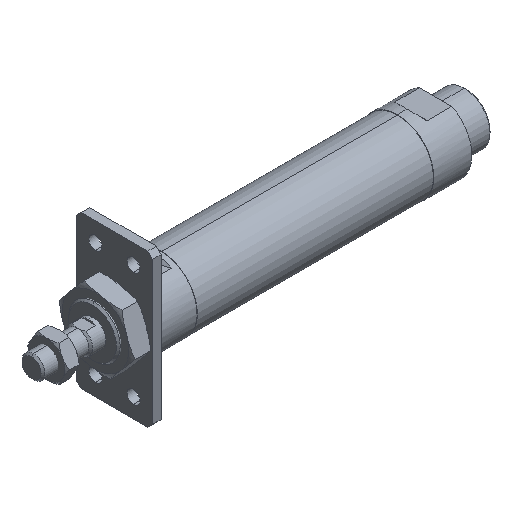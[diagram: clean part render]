
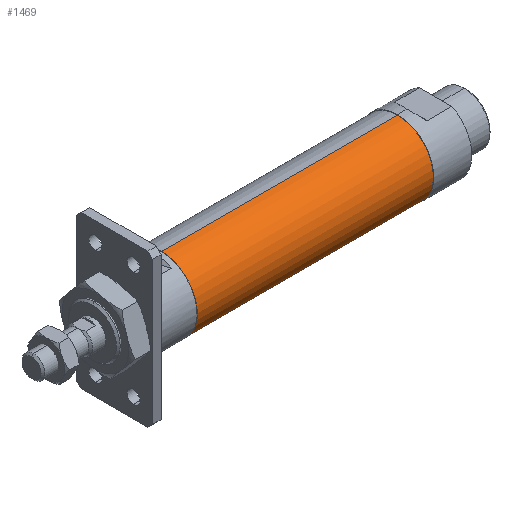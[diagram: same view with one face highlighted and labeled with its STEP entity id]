
A CAD part, isometric view. The second image highlights one B-rep face of the part: STEP entity #1469.
In plain terms, the highlighted cylindrical face has radius 18.8 mm (diameter 37.6 mm), a partial arc.
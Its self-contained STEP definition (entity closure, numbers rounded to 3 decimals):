
#22 = AXIS2_PLACEMENT_3D ( 'NONE', #758, #3066, #3541 ) ;
#172 = VERTEX_POINT ( 'NONE', #3349 ) ;
#340 = VERTEX_POINT ( 'NONE', #2755 ) ;
#526 = DIRECTION ( 'NONE',  ( -1., 0., 0. ) ) ;
#637 = ORIENTED_EDGE ( 'NONE', *, *, #2220, .F. ) ;
#732 = DIRECTION ( 'NONE',  ( -1., 0., 0. ) ) ;
#758 = CARTESIAN_POINT ( 'NONE',  ( 192., 0., 0. ) ) ;
#943 = CARTESIAN_POINT ( 'NONE',  ( -1.784, 0., 0. ) ) ;
#1017 = FACE_OUTER_BOUND ( 'NONE', #3436, .T. ) ;
#1083 = CARTESIAN_POINT ( 'NONE',  ( -1.784, 0., -18.8 ) ) ;
#1469 = ADVANCED_FACE ( 'NONE', ( #1017 ), #3592, .T. ) ;
#1471 = CARTESIAN_POINT ( 'NONE',  ( 68., 0., -18.8 ) ) ;
#1635 = ORIENTED_EDGE ( 'NONE', *, *, #3075, .T. ) ;
#1799 = CIRCLE ( 'NONE', #3258, 18.8 ) ;
#1979 = CIRCLE ( 'NONE', #22, 18.8 ) ;
#2220 = EDGE_CURVE ( 'NONE', #3739, #2660, #2294, .T. ) ;
#2252 = DIRECTION ( 'NONE',  ( -1., 0., 0. ) ) ;
#2258 = LINE ( 'NONE', #4111, #2407 ) ;
#2294 = LINE ( 'NONE', #1083, #3359 ) ;
#2407 = VECTOR ( 'NONE', #2252, 1000. ) ;
#2426 = EDGE_CURVE ( 'NONE', #2660, #340, #1799, .T. ) ;
#2458 = EDGE_CURVE ( 'NONE', #3739, #172, #1979, .T. ) ;
#2646 = CARTESIAN_POINT ( 'NONE',  ( 68., 0., 0. ) ) ;
#2660 = VERTEX_POINT ( 'NONE', #1471 ) ;
#2741 = AXIS2_PLACEMENT_3D ( 'NONE', #943, #732, #3728 ) ;
#2755 = CARTESIAN_POINT ( 'NONE',  ( 68., 0., 18.8 ) ) ;
#2995 = DIRECTION ( 'NONE',  ( -1., 0., 0. ) ) ;
#3066 = DIRECTION ( 'NONE',  ( -1., 0., 0. ) ) ;
#3075 = EDGE_CURVE ( 'NONE', #172, #340, #2258, .T. ) ;
#3155 = CARTESIAN_POINT ( 'NONE',  ( 192., 0., -18.8 ) ) ;
#3258 = AXIS2_PLACEMENT_3D ( 'NONE', #2646, #2995, #3269 ) ;
#3269 = DIRECTION ( 'NONE',  ( 0., 0., 1. ) ) ;
#3349 = CARTESIAN_POINT ( 'NONE',  ( 192., 0., 18.8 ) ) ;
#3359 = VECTOR ( 'NONE', #526, 1000. ) ;
#3436 = EDGE_LOOP ( 'NONE', ( #637, #3719, #1635, #3581 ) ) ;
#3541 = DIRECTION ( 'NONE',  ( 0., 0., 1. ) ) ;
#3581 = ORIENTED_EDGE ( 'NONE', *, *, #2426, .F. ) ;
#3592 = CYLINDRICAL_SURFACE ( 'NONE', #2741, 18.8 ) ;
#3719 = ORIENTED_EDGE ( 'NONE', *, *, #2458, .T. ) ;
#3728 = DIRECTION ( 'NONE',  ( 0., 0., 1. ) ) ;
#3739 = VERTEX_POINT ( 'NONE', #3155 ) ;
#4111 = CARTESIAN_POINT ( 'NONE',  ( -1.784, 0., 18.8 ) ) ;
